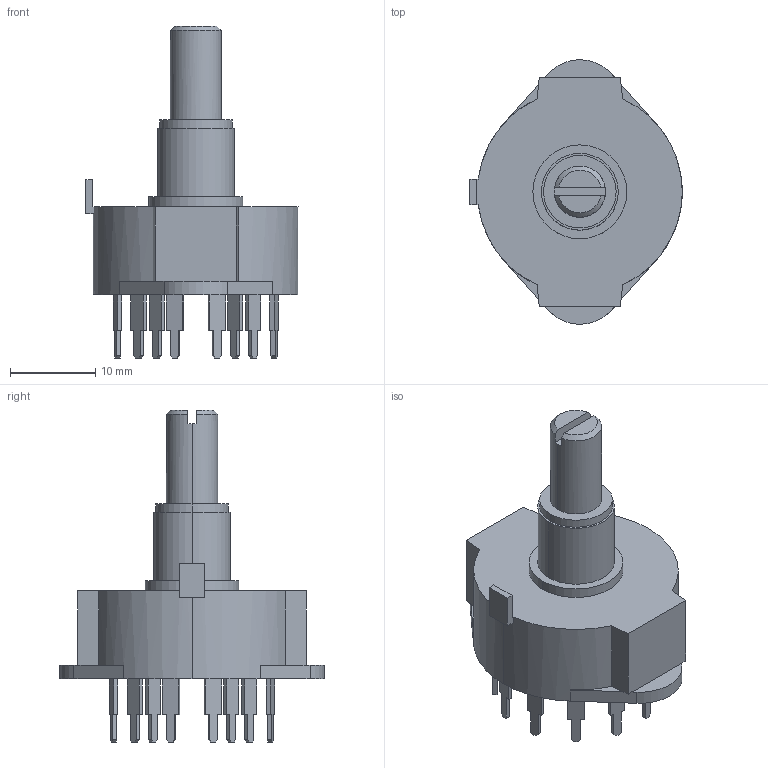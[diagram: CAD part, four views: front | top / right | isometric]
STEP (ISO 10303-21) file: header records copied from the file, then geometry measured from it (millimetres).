
FILE_DESCRIPTION (( 'STEP AP214' ), '1' );
FILE_NAME ('SRRM262400.STEP', '2015-05-21T05:47:56', ( 'user' ), ( 'HP' ), 'SwSTEP 2.0', 'SolidWorks 2014', '' );
FILE_SCHEMA (( 'AUTOMOTIVE_DESIGN' ));
Length unit declared in the file: millimetre
Products named in the file (1): SRRM262400
Bounding box: 24.9 x 31 x 38.9 mm (x, y, z)
Volume: 6129.8 mm3; surface area: 2868.4 mm2
Topology: 1 solids, 1 shells, 205 faces, 547 edges, 362 vertices
Faces by surface type: plane 190, cylinder 13, cone 2
Entity records: 6874 total; most frequent: CARTESIAN_POINT 1127, ORIENTED_EDGE 1094, DIRECTION 993, EDGE_CURVE 547, LINE 505, VECTOR 505, VERTEX_POINT 362, AXIS2_PLACEMENT_3D 244
